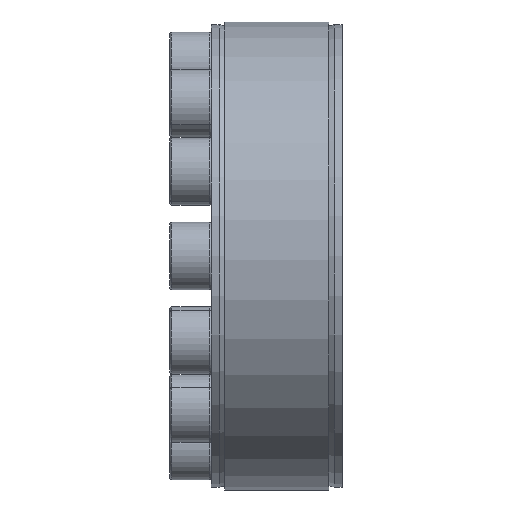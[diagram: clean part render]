
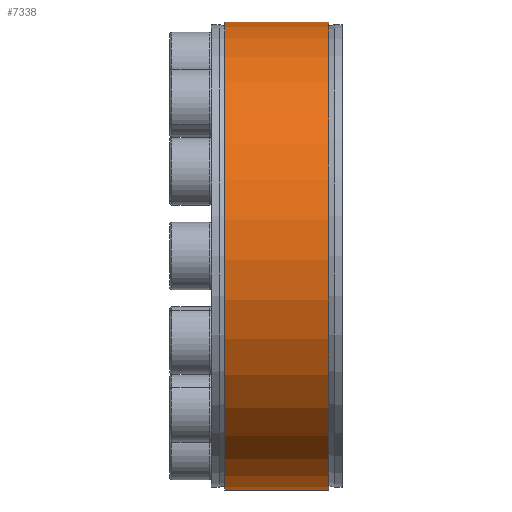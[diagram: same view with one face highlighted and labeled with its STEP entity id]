
A CAD part, front view. The second image highlights one B-rep face of the part: STEP entity #7338.
In plain terms, the highlighted cylindrical face has radius 45 mm (diameter 90 mm), a partial arc.
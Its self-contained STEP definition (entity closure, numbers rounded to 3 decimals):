
#26 = ORIENTED_EDGE ( 'NONE', *, *, #3155, .F. ) ;
#175 = EDGE_CURVE ( 'NONE', #4624, #6298, #1375, .T. ) ;
#406 = VECTOR ( 'NONE', #3367, 1000. ) ;
#481 = VERTEX_POINT ( 'NONE', #5105 ) ;
#769 = ORIENTED_EDGE ( 'NONE', *, *, #175, .T. ) ;
#977 = ORIENTED_EDGE ( 'NONE', *, *, #6204, .F. ) ;
#1375 = CIRCLE ( 'NONE', #4603, 45. ) ;
#1908 = DIRECTION ( 'NONE',  ( 0., 0., 1. ) ) ;
#2105 = CYLINDRICAL_SURFACE ( 'NONE', #2717, 45. ) ;
#2111 = CARTESIAN_POINT ( 'NONE',  ( -10., 1.5, 44.975 ) ) ;
#2673 = LINE ( 'NONE', #5954, #406 ) ;
#2717 = AXIS2_PLACEMENT_3D ( 'NONE', #4714, #3888, #3053 ) ;
#3053 = DIRECTION ( 'NONE',  ( 0., 0., 1. ) ) ;
#3155 = EDGE_CURVE ( 'NONE', #4624, #6387, #2673, .T. ) ;
#3367 = DIRECTION ( 'NONE',  ( -1., 0., 0. ) ) ;
#3543 = DIRECTION ( 'NONE',  ( 1., 0., 0. ) ) ;
#3888 = DIRECTION ( 'NONE',  ( -1., 0., 0. ) ) ;
#4603 = AXIS2_PLACEMENT_3D ( 'NONE', #7357, #9172, #1908 ) ;
#4613 = CARTESIAN_POINT ( 'NONE',  ( -10., 0., 0. ) ) ;
#4624 = VERTEX_POINT ( 'NONE', #6385 ) ;
#4714 = CARTESIAN_POINT ( 'NONE',  ( -13.426, 0., 0. ) ) ;
#5042 = ORIENTED_EDGE ( 'NONE', *, *, #6822, .F. ) ;
#5105 = CARTESIAN_POINT ( 'NONE',  ( -10., -1.5, 44.975 ) ) ;
#5164 = EDGE_LOOP ( 'NONE', ( #26, #769, #977, #5042 ) ) ;
#5271 = LINE ( 'NONE', #9374, #9428 ) ;
#5470 = DIRECTION ( 'NONE',  ( 0., 0., 1. ) ) ;
#5954 = CARTESIAN_POINT ( 'NONE',  ( -13.426, 1.5, 44.975 ) ) ;
#6127 = CARTESIAN_POINT ( 'NONE',  ( 10., -1.5, 44.975 ) ) ;
#6157 = CIRCLE ( 'NONE', #10780, 45. ) ;
#6204 = EDGE_CURVE ( 'NONE', #481, #6298, #5271, .T. ) ;
#6298 = VERTEX_POINT ( 'NONE', #6127 ) ;
#6385 = CARTESIAN_POINT ( 'NONE',  ( 10., 1.5, 44.975 ) ) ;
#6387 = VERTEX_POINT ( 'NONE', #2111 ) ;
#6822 = EDGE_CURVE ( 'NONE', #6387, #481, #6157, .T. ) ;
#7338 = ADVANCED_FACE ( 'NONE', ( #8995 ), #2105, .T. ) ;
#7357 = CARTESIAN_POINT ( 'NONE',  ( 10., 0., 0. ) ) ;
#8995 = FACE_OUTER_BOUND ( 'NONE', #5164, .T. ) ;
#9172 = DIRECTION ( 'NONE',  ( -1., 0., 0. ) ) ;
#9374 = CARTESIAN_POINT ( 'NONE',  ( -13.426, -1.5, 44.975 ) ) ;
#9428 = VECTOR ( 'NONE', #3543, 1000. ) ;
#10432 = DIRECTION ( 'NONE',  ( -1., 0., 0. ) ) ;
#10780 = AXIS2_PLACEMENT_3D ( 'NONE', #4613, #10432, #5470 ) ;
